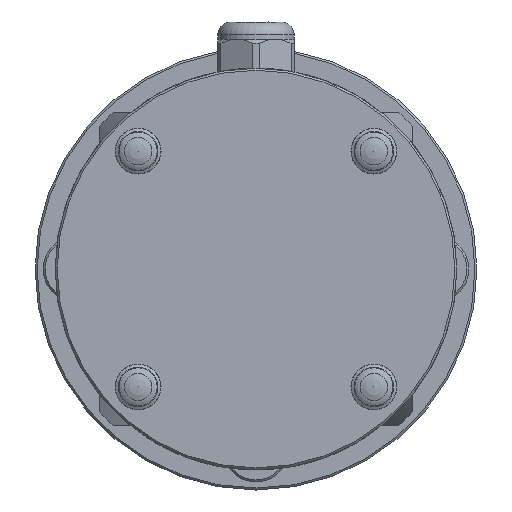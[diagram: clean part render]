
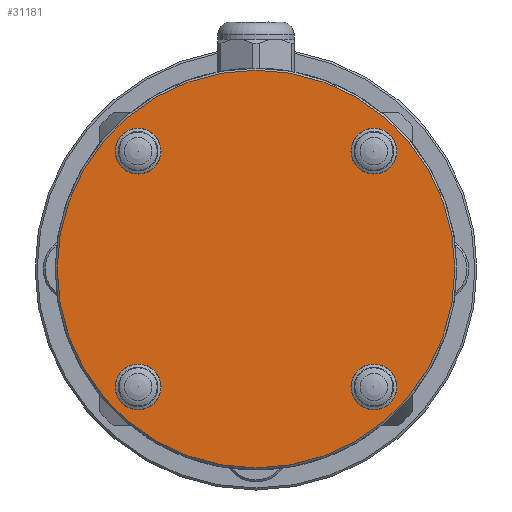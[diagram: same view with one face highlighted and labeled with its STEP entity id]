
A CAD part, left-side view. The second image highlights one B-rep face of the part: STEP entity #31181.
In plain terms, the highlighted planar face has unit normal (-1, 0, 0).
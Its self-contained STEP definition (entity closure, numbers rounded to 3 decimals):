
#7230=PLANE('',#34143);
#8484=FACE_BOUND('',#12342,.T.);
#8485=FACE_BOUND('',#12343,.T.);
#8486=FACE_BOUND('',#12344,.T.);
#8487=FACE_BOUND('',#12345,.T.);
#9997=FACE_OUTER_BOUND('',#12341,.T.);
#12341=EDGE_LOOP('',(#27657));
#12342=EDGE_LOOP('',(#27658));
#12343=EDGE_LOOP('',(#27659));
#12344=EDGE_LOOP('',(#27660));
#12345=EDGE_LOOP('',(#27661));
#13838=CIRCLE('',#34029,4.75);
#13841=CIRCLE('',#34035,4.75);
#13844=CIRCLE('',#34041,4.75);
#13847=CIRCLE('',#34047,4.75);
#13875=CIRCLE('',#34142,49.5);
#16443=VERTEX_POINT('',#52376);
#16446=VERTEX_POINT('',#52385);
#16449=VERTEX_POINT('',#52394);
#16452=VERTEX_POINT('',#52403);
#16523=VERTEX_POINT('',#52965);
#20240=EDGE_CURVE('',#16443,#16443,#13838,.T.);
#20243=EDGE_CURVE('',#16446,#16446,#13841,.T.);
#20246=EDGE_CURVE('',#16449,#16449,#13844,.T.);
#20249=EDGE_CURVE('',#16452,#16452,#13847,.T.);
#20365=EDGE_CURVE('',#16523,#16523,#13875,.T.);
#27657=ORIENTED_EDGE('',*,*,#20365,.F.);
#27658=ORIENTED_EDGE('',*,*,#20240,.T.);
#27659=ORIENTED_EDGE('',*,*,#20243,.T.);
#27660=ORIENTED_EDGE('',*,*,#20246,.T.);
#27661=ORIENTED_EDGE('',*,*,#20249,.T.);
#31181=ADVANCED_FACE('',(#9997,#8484,#8485,#8486,#8487),#7230,.F.);
#34029=AXIS2_PLACEMENT_3D('',#52377,#41701,#41702);
#34035=AXIS2_PLACEMENT_3D('',#52386,#41713,#41714);
#34041=AXIS2_PLACEMENT_3D('',#52395,#41725,#41726);
#34047=AXIS2_PLACEMENT_3D('',#52404,#41737,#41738);
#34142=AXIS2_PLACEMENT_3D('',#52966,#41987,#41988);
#34143=AXIS2_PLACEMENT_3D('',#52967,#41989,#41990);
#41701=DIRECTION('center_axis',(1.,0.,0.));
#41702=DIRECTION('ref_axis',(0.,0.707,0.707));
#41713=DIRECTION('center_axis',(1.,0.,0.));
#41714=DIRECTION('ref_axis',(0.,0.707,-0.707));
#41725=DIRECTION('center_axis',(1.,0.,0.));
#41726=DIRECTION('ref_axis',(0.,-0.707,-0.707));
#41737=DIRECTION('center_axis',(1.,0.,0.));
#41738=DIRECTION('ref_axis',(0.,-0.707,0.707));
#41987=DIRECTION('center_axis',(1.,0.,0.));
#41988=DIRECTION('ref_axis',(0.,0.,
-1.));
#41989=DIRECTION('center_axis',(1.,0.,0.));
#41990=DIRECTION('ref_axis',(0.,0.,-1.));
#52376=CARTESIAN_POINT('',(-59.,32.704,32.704));
#52377=CARTESIAN_POINT('Origin',(-59.,29.345,29.345));
#52385=CARTESIAN_POINT('',(-59.,32.704,-32.704));
#52386=CARTESIAN_POINT('Origin',(-59.,29.345,-29.345));
#52394=CARTESIAN_POINT('',(-59.,-32.704,-32.704));
#52395=CARTESIAN_POINT('Origin',(-59.,-29.345,-29.345));
#52403=CARTESIAN_POINT('',(-59.,-32.704,32.704));
#52404=CARTESIAN_POINT('Origin',(-59.,-29.345,29.345));
#52965=CARTESIAN_POINT('',(-59.,0.,49.5));
#52966=CARTESIAN_POINT('Origin',(-59.,0.,0.));
#52967=CARTESIAN_POINT('Origin',(-59.,0.,0.));
